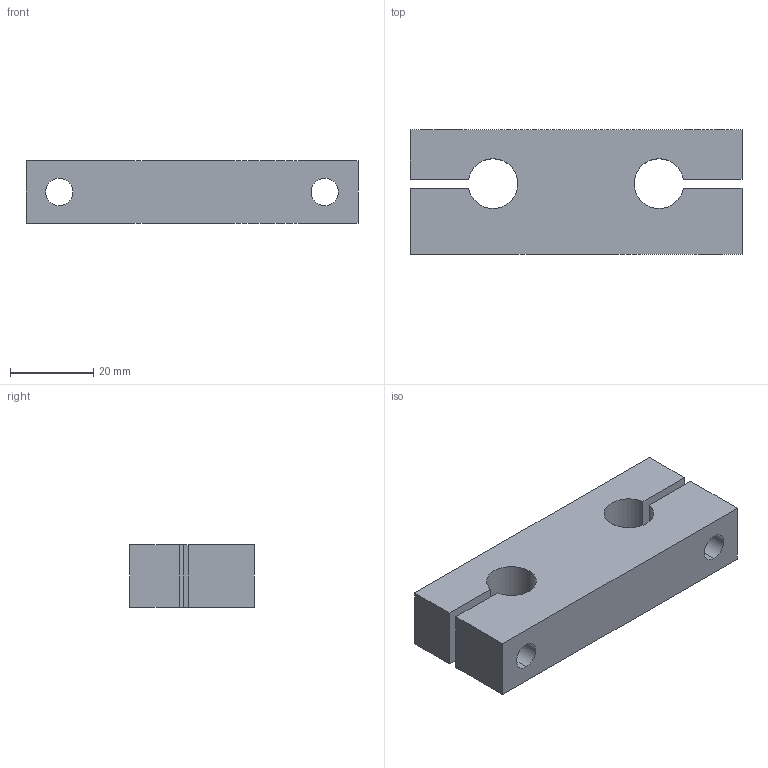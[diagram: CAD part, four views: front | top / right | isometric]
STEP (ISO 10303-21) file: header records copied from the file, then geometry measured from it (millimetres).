
FILE_DESCRIPTION (( 'STEP AP214' ), '1' );
FILE_NAME ('KTAC-12.step', '2020-03-04T13:12:21', ( '' ), ( '' ), 'SwSTEP 2.0', 'SolidWorks 2019', '' );
FILE_SCHEMA (( 'AUTOMOTIVE_DESIGN' ));
Length unit declared in the file: millimetre
Products named in the file (1): KTAC-12
Bounding box: 80 x 30 x 15 mm (x, y, z)
Volume: 28745.4 mm3; surface area: 10508.7 mm2
Topology: 1 solids, 1 shells, 35 faces, 89 edges, 57 vertices
Faces by surface type: cylinder 17, plane 14, cone 4
Entity records: 1103 total; most frequent: DIRECTION 195, CARTESIAN_POINT 180, ORIENTED_EDGE 174, EDGE_CURVE 87, AXIS2_PLACEMENT_3D 72, VERTEX_POINT 57, LINE 51, VECTOR 51
